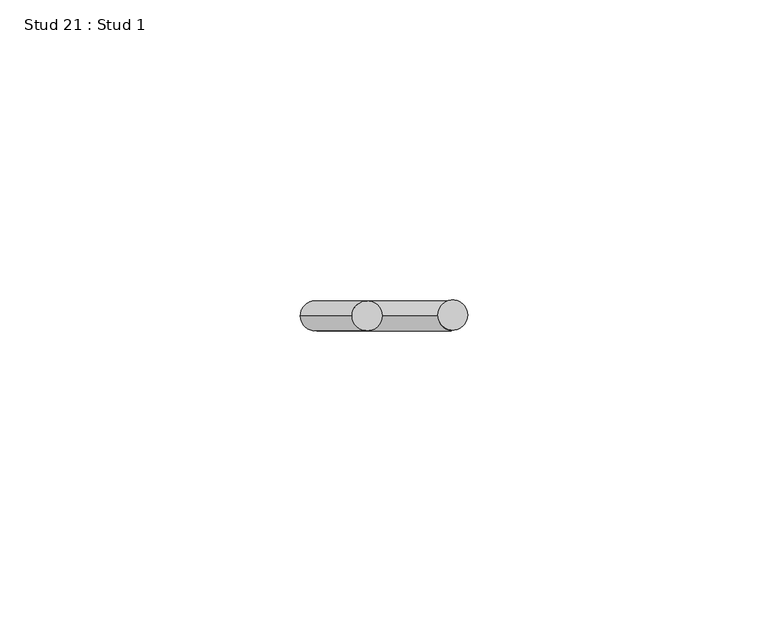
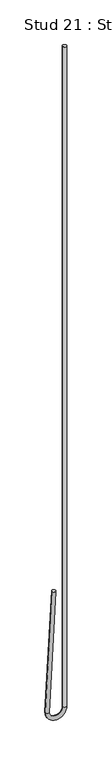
"""IFC4 building model written with IfcOpenShell, lengths in millimetres: proxy geometry, Stud 21 : Stud 1."""

from ifc_helpers import new_model, si_unit, point, frame, origin, place, context, project, spatial, circle_curve, ellipse_curve, trimmed, source, transform, mapped, element, save
from ifc_brep_helpers import plane_surface, cylinder_surface, revolved_surface, advanced_brep


def stud_21_stud_1_4416dd86(model_context):
    return source(origin(), model_context, "Body", "AdvancedBrep", [
        advanced_brep(
        [(-13440.3532788, 886.5972731, 3640.800192), (-13435.3601311, 886.5972731, 3640.5385122), (-13448.9939451, 886.5972731, 3475.9264558), (-13444.0007975, 886.5972731, 3475.664776), (-13426.0920812, 886.5972731, 3475.7956159), (-13421.0920812, 886.5972731, 3475.7956159), (-13421.0920812, 886.5972731, 4390.1956159), (-13426.0920812, 886.5972731, 4390.1956159)],
        [
            (0, 1, circle_curve(frame((-13437.8567049, 886.5972731, 3640.6693521), z_axis=(0.05233595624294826, 0.0, 0.9986295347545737), x_axis=(0.9986295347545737, 0.0, -0.05233595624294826)), 2.5)),
            (1, 0, circle_curve(frame((-13437.8567049, 886.5972731, 3640.6693521), z_axis=(0.05233595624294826, 0.0, 0.9986295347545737), x_axis=(0.9986295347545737, 0.0, -0.05233595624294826)), 2.5)),
            (0, 2),
            (2, 3, circle_curve(frame((-13446.4973713, 886.5972731, 3475.7956159), z_axis=(0.05233595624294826, 0.0, 0.9986295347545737), x_axis=(0.9986295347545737, 0.0, -0.05233595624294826)), 2.5)),
            (3, 1),
            (3, 2, circle_curve(frame((-13446.4973713, 886.5972731, 3475.7956159), z_axis=(0.05233595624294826, 0.0, 0.9986295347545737), x_axis=(0.9986295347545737, 0.0, -0.05233595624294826)), 2.5)),
            (4, 3, circle_curve(frame((-13435.0447263, 886.5972731, 3475.7956159), z_axis=(0.0, 1.0, 0.0), x_axis=(-1.0, 0.0, 0.0)), 8.952645)),
            (2, 5, circle_curve(frame((-13435.0447263, 886.5972731, 3475.7956159), z_axis=(0.0, -1.0, 0.0), x_axis=(-1.0, 0.0, 0.0)), 13.952645)),
            (5, 4, circle_curve(frame((-13423.5920812, 886.5972731, 3475.7956159), z_axis=(0.0, 0.0, -1.0), x_axis=(-1.0, 0.0, 0.0)), 2.5)),
            (4, 5, circle_curve(frame((-13423.5920812, 886.5972731, 3475.7956159), z_axis=(0.0, 0.0, -1.0), x_axis=(-1.0, 0.0, 0.0)), 2.5)),
            (6, 7, circle_curve(frame((-13423.5920812, 886.5972731, 4390.1956159), z_axis=(0.0, 0.0, 1.0), x_axis=(-1.0, 0.0, 0.0)), 2.5)),
            (7, 6, circle_curve(frame((-13423.5920812, 886.5972731, 4390.1956159), z_axis=(0.0, 0.0, 1.0), x_axis=(-1.0, 0.0, 0.0)), 2.5)),
            (5, 6),
            (7, 4),
        ],
        [
            plane_surface(frame((-13437.8567049, 1480.3222731, 3640.6693521), z_axis=(0.05233595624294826, 0.0, 0.9986295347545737), x_axis=(0.0, -1.0, 0.0))),
            cylinder_surface(frame((-13437.8567049, 886.5972731, 3640.6693521), z_axis=(0.05233595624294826, 0.0, 0.9986295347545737), x_axis=(0.9986295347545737, 0.0, -0.05233595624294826)), 2.5),
            revolved_surface(trimmed(ellipse_curve(frame((-13446.4973713, 886.5972731, 3475.7956159), z_axis=(0.0, 0.0, 1.0), x_axis=(1.0, 0.0, 0.0)), 2.5, 2.5), [point((-13448.9973713, 886.5972731, 3475.7956159))], [point((-13443.9973713, 886.5972731, 3475.7956159))], True, "CARTESIAN"), (-13435.0447263, 1480.3222731, 3475.7956159), (0.0, -1.0, 0.0)),
            revolved_surface(trimmed(ellipse_curve(frame((-13446.4973713, 886.5972731, 3475.7956159), z_axis=(0.0, 0.0, 1.0), x_axis=(1.0, 0.0, 0.0)), 2.5, 2.5), [point((-13443.9973713, 886.5972731, 3475.7956159))], [point((-13448.9973713, 886.5972731, 3475.7956159))], True, "CARTESIAN"), (-13435.0447263, 1480.3222731, 3475.7956159), (0.0, -1.0, 0.0)),
            plane_surface(frame((-13423.5920812, 1480.3222731, 4390.1956159), z_axis=(0.0, 0.0, 1.0), x_axis=(0.0, -1.0, 0.0))),
            cylinder_surface(frame((-13423.5920812, 886.5972731, 3475.7956159), z_axis=(0.0, 0.0, -1.0), x_axis=(-1.0, 0.0, 0.0)), 2.5),
        ],
        [
            (0, [[1, 2]]),
            (1, [[-1, 3, 4, 5]]),
            (1, [[-2, -5, 6, -3]]),
            (2, [[7, -4, 8, 9]]),
            (3, [[-8, -6, -7, 10]]),
            (4, [[11, 12]]),
            (5, [[-9, 13, -12, 14]]),
            (5, [[-10, -14, -11, -13]]),
        ],
    ),
    ])


if __name__ == "__main__":
    model = new_model("IFC4")
    model_context = context("Model", 3, world=origin())
    ifc_project = project(units=[si_unit("LENGTHUNIT", "METRE", prefix="MILLI")], contexts=[model_context])
    site = spatial("IfcSite", under=ifc_project)
    building = spatial("IfcBuilding", under=site)
    placement = place(None, origin())
    stud_21_stud_1_shape = stud_21_stud_1_4416dd86(model_context)
    element("IfcBuildingElementProxy", 1, Name="Stud 21 : Stud 1", ObjectType="Stud 21 : Stud 1", at=placement, inside=building, context=model_context, shape_type="MappedRepresentation", body=[
        mapped(stud_21_stud_1_shape, transform((0.0, 0.0, 0.0), x_axis=(1.0, 0.0, 0.0), y_axis=(0.0, 1.0, 0.0), z_axis=(0.0, 0.0, 1.0))),
    ])
    save(model, "model.ifc")
